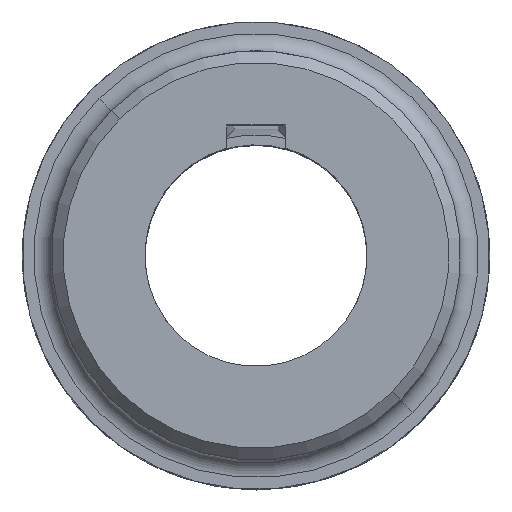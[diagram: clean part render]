
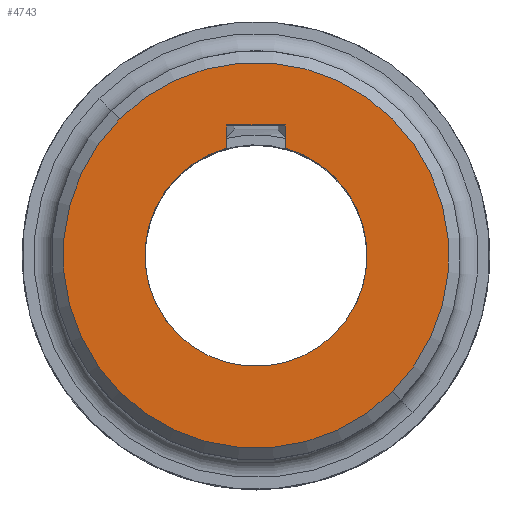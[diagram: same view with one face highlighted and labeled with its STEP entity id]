
A CAD part, top view. The second image highlights one B-rep face of the part: STEP entity #4743.
In plain terms, the highlighted planar face has unit normal (0, 0, 1) as drawn and (0, 0, -1) by its records, which use the part's own axes.
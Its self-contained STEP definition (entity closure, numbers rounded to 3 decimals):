
#50 = DIRECTION ( 'NONE',  ( 0., 1., 0. ) ) ;
#88 = ORIENTED_EDGE ( 'NONE', *, *, #2124, .T. ) ;
#293 = LINE ( 'NONE', #1442, #2070 ) ;
#418 = LINE ( 'NONE', #3888, #2627 ) ;
#510 = CARTESIAN_POINT ( 'NONE',  ( 0., 33., -45. ) ) ;
#540 = DIRECTION ( 'NONE',  ( 0., 1., 0. ) ) ;
#645 = DIRECTION ( 'NONE',  ( 0., 0., 1. ) ) ;
#710 = AXIS2_PLACEMENT_3D ( 'NONE', #4000, #3439, #50 ) ;
#951 = VERTEX_POINT ( 'NONE', #510 ) ;
#1008 = EDGE_CURVE ( 'NONE', #2739, #5605, #418, .T. ) ;
#1098 = EDGE_CURVE ( 'NONE', #6933, #2739, #2091, .T. ) ;
#1153 = EDGE_CURVE ( 'NONE', #4384, #7234, #5468, .T. ) ;
#1165 = ORIENTED_EDGE ( 'NONE', *, *, #1098, .F. ) ;
#1402 = AXIS2_PLACEMENT_3D ( 'NONE', #3491, #2376, #4601 ) ;
#1406 = EDGE_CURVE ( 'NONE', #5605, #1541, #293, .T. ) ;
#1442 = CARTESIAN_POINT ( 'NONE',  ( -12.233, 19.304, -45. ) ) ;
#1527 = EDGE_LOOP ( 'NONE', ( #4787, #5162, #3607, #7218, #4237, #1165 ) ) ;
#1541 = VERTEX_POINT ( 'NONE', #5035 ) ;
#2070 = VECTOR ( 'NONE', #6023, 1000. ) ;
#2091 = LINE ( 'NONE', #3329, #4757 ) ;
#2124 = EDGE_CURVE ( 'NONE', #951, #4586, #4629, .T. ) ;
#2140 = DIRECTION ( 'NONE',  ( 0., 0., 1. ) ) ;
#2250 = DIRECTION ( 'NONE',  ( -0.868, 0.496, 0. ) ) ;
#2348 = ORIENTED_EDGE ( 'NONE', *, *, #5739, .F. ) ;
#2376 = DIRECTION ( 'NONE',  ( 0., 0., 1. ) ) ;
#2378 = PLANE ( 'NONE',  #2847 ) ;
#2442 = CARTESIAN_POINT ( 'NONE',  ( 0., 0., -45. ) ) ;
#2627 = VECTOR ( 'NONE', #7151, 1000. ) ;
#2739 = VERTEX_POINT ( 'NONE', #6223 ) ;
#2771 = AXIS2_PLACEMENT_3D ( 'NONE', #6100, #4418, #6570 ) ;
#2847 = AXIS2_PLACEMENT_3D ( 'NONE', #2442, #3493, #4641 ) ;
#3193 = AXIS2_PLACEMENT_3D ( 'NONE', #3370, #2140, #540 ) ;
#3251 = DIRECTION ( 'NONE',  ( -0.707, 0.707, 0. ) ) ;
#3329 = CARTESIAN_POINT ( 'NONE',  ( -16.497, 9.426, -45. ) ) ;
#3370 = CARTESIAN_POINT ( 'NONE',  ( 0., 0., -45. ) ) ;
#3439 = DIRECTION ( 'NONE',  ( 0., 0., -1. ) ) ;
#3491 = CARTESIAN_POINT ( 'NONE',  ( 0., 0., -45. ) ) ;
#3493 = DIRECTION ( 'NONE',  ( 0., 0., -1. ) ) ;
#3607 = ORIENTED_EDGE ( 'NONE', *, *, #5622, .T. ) ;
#3888 = CARTESIAN_POINT ( 'NONE',  ( -19.304, 12.233, -45. ) ) ;
#4000 = CARTESIAN_POINT ( 'NONE',  ( 0., 0., -45. ) ) ;
#4038 = CARTESIAN_POINT ( 'NONE',  ( 0., 0., -45. ) ) ;
#4059 = EDGE_CURVE ( 'NONE', #6933, #4384, #4407, .T. ) ;
#4237 = ORIENTED_EDGE ( 'NONE', *, *, #1008, .F. ) ;
#4384 = VERTEX_POINT ( 'NONE', #4923 ) ;
#4407 = CIRCLE ( 'NONE', #2771, 19. ) ;
#4418 = DIRECTION ( 'NONE',  ( 0., 0., 1. ) ) ;
#4586 = VERTEX_POINT ( 'NONE', #6061 ) ;
#4601 = DIRECTION ( 'NONE',  ( -0.868, 0.496, 0. ) ) ;
#4629 = CIRCLE ( 'NONE', #710, 33. ) ;
#4641 = DIRECTION ( 'NONE',  ( 0., -1., 0. ) ) ;
#4642 = CARTESIAN_POINT ( 'NONE',  ( 19., 0., -45. ) ) ;
#4743 = ADVANCED_FACE ( 'NONE', ( #6947, #5272 ), #2378, .T. ) ;
#4757 = VECTOR ( 'NONE', #3251, 1000. ) ;
#4787 = ORIENTED_EDGE ( 'NONE', *, *, #4059, .T. ) ;
#4923 = CARTESIAN_POINT ( 'NONE',  ( -19., 0., -45. ) ) ;
#5014 = AXIS2_PLACEMENT_3D ( 'NONE', #4038, #645, #2250 ) ;
#5035 = CARTESIAN_POINT ( 'NONE',  ( -9.426, 16.497, -45. ) ) ;
#5162 = ORIENTED_EDGE ( 'NONE', *, *, #1153, .T. ) ;
#5272 = FACE_OUTER_BOUND ( 'NONE', #6318, .T. ) ;
#5468 = CIRCLE ( 'NONE', #5014, 19. ) ;
#5605 = VERTEX_POINT ( 'NONE', #6388 ) ;
#5622 = EDGE_CURVE ( 'NONE', #7234, #1541, #6402, .T. ) ;
#5640 = CARTESIAN_POINT ( 'NONE',  ( -16.497, 9.426, -45. ) ) ;
#5739 = EDGE_CURVE ( 'NONE', #951, #4586, #6173, .T. ) ;
#6023 = DIRECTION ( 'NONE',  ( 0.707, -0.707, 0. ) ) ;
#6061 = CARTESIAN_POINT ( 'NONE',  ( 0., -33., -45. ) ) ;
#6100 = CARTESIAN_POINT ( 'NONE',  ( 0., 0., -45. ) ) ;
#6173 = CIRCLE ( 'NONE', #3193, 33. ) ;
#6223 = CARTESIAN_POINT ( 'NONE',  ( -19.304, 12.233, -45. ) ) ;
#6318 = EDGE_LOOP ( 'NONE', ( #88, #2348 ) ) ;
#6388 = CARTESIAN_POINT ( 'NONE',  ( -12.233, 19.304, -45. ) ) ;
#6402 = CIRCLE ( 'NONE', #1402, 19. ) ;
#6570 = DIRECTION ( 'NONE',  ( -0.868, 0.496, 0. ) ) ;
#6933 = VERTEX_POINT ( 'NONE', #5640 ) ;
#6947 = FACE_BOUND ( 'NONE', #1527, .T. ) ;
#7151 = DIRECTION ( 'NONE',  ( 0.707, 0.707, 0. ) ) ;
#7218 = ORIENTED_EDGE ( 'NONE', *, *, #1406, .F. ) ;
#7234 = VERTEX_POINT ( 'NONE', #4642 ) ;
